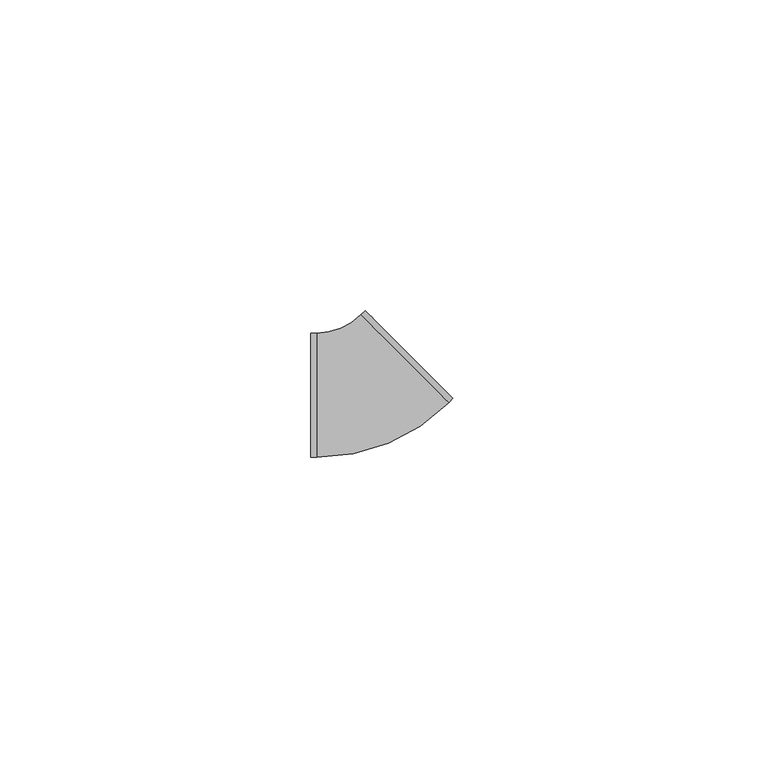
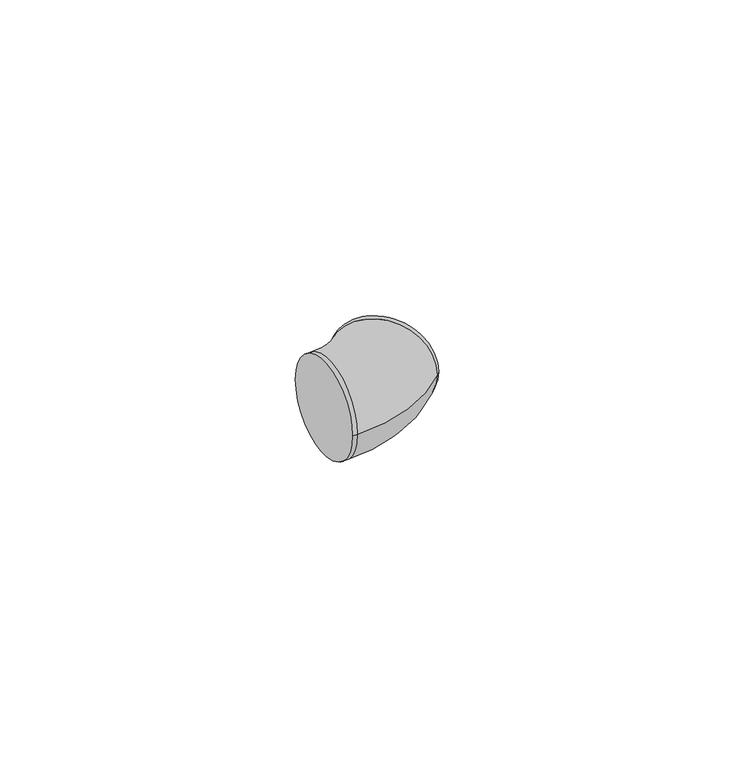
"""IFC4 building model written with IfcOpenShell, lengths in millimetres: cable carrier fitting geometry, ADSK_Поворот_Минимальный размер : Неспецифицируемый."""

from ifc_helpers import new_model, si_unit, point, frame, origin, place, context, project, spatial, circle_curve, ellipse_curve, trimmed, source, transform, mapped, element, save
from ifc_brep_helpers import plane_surface, cylinder_surface, revolved_surface, advanced_brep


def cable_carrier_fitting_a14a04ee(model_context):
    return source(origin(), model_context, "Body", "AdvancedBrep", [
        advanced_brep(
        [(-9.284272, -10.0, 0.0), (-9.284272, 10.0, 0.0), (-8.284272, -10.0, 0.0), (-8.284272, 10.0, 0.0), (-1.2132037, 12.9289327, 0.0), (12.9289328, -1.213202, 0.0), (13.6360396, -0.5060952, 0.0), (-0.506097, 13.6360395, 0.0)],
        [
            (0, 1, circle_curve(frame((-9.284272, 0.0, 0.0), z_axis=(-1.0, -4.92260399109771e-12, 0.0), x_axis=(-4.92260399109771e-12, 1.0, 0.0)), 10.0)),
            (1, 0, circle_curve(frame((-9.284272, 0.0, 0.0), z_axis=(-1.0, -4.92260399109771e-12, 0.0), x_axis=(-4.92260399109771e-12, 1.0, 0.0)), 10.0)),
            (0, 2),
            (2, 3, circle_curve(frame((-8.284272, 0.0, 0.0), z_axis=(-1.0, -4.92260399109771e-12, 0.0), x_axis=(-4.92260399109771e-12, 1.0, 0.0)), 10.0)),
            (3, 1),
            (3, 2, circle_curve(frame((-8.284272, 0.0, 0.0), z_axis=(-1.0, -4.92260399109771e-12, 0.0), x_axis=(-4.92260399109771e-12, 1.0, 0.0)), 10.0)),
            (4, 3, circle_curve(frame((-8.284272, 20.0, 0.0), z_axis=(0.0, 0.0, -1.0), x_axis=(0.0, -1.0, 0.0)), 10.0)),
            (2, 5, circle_curve(frame((-8.284272, 20.0, 0.0), z_axis=(0.0, 0.0, 1.0), x_axis=(0.0, -1.0, 0.0)), 30.0)),
            (5, 4, circle_curve(frame((5.8578645, 5.8578653, 0.0), z_axis=(-0.7071067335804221, -0.7071068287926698, 0.0), x_axis=(-0.7071068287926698, 0.7071067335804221, 0.0)), 10.0)),
            (4, 5, circle_curve(frame((5.8578645, 5.8578653, 0.0), z_axis=(-0.7071067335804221, -0.7071068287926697, 0.0), x_axis=(-0.7071068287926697, 0.7071067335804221, 0.0)), 10.0)),
            (6, 7, circle_curve(frame((6.5649713, 6.5649722, 0.0), z_axis=(0.7071067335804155, 0.7071068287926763, 0.0), x_axis=(-0.7071068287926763, 0.7071067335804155, 0.0)), 10.0)),
            (7, 6, circle_curve(frame((6.5649713, 6.5649722, 0.0), z_axis=(0.7071067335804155, 0.7071068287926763, 0.0), x_axis=(-0.7071068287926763, 0.7071067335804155, 0.0)), 10.0)),
            (5, 6),
            (7, 4),
        ],
        [
            plane_surface(frame((-9.284272, 0.0, 0.0), z_axis=(-1.0, -4.92260399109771e-12, 0.0), x_axis=(0.0, 0.0, 1.0))),
            cylinder_surface(frame((-9.284272, 0.0, 0.0), z_axis=(-1.0, -4.92260399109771e-12, 0.0), x_axis=(-4.92260399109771e-12, 1.0, 0.0)), 10.0),
            revolved_surface(trimmed(ellipse_curve(frame((-8.284272, 0.0, 0.0), z_axis=(-1.0, 0.0, 0.0), x_axis=(0.0, 1.0, 0.0)), 10.0, 10.0), [point((-8.284272, -10.0, 0.0))], [point((-8.284272, 10.0, 0.0))], True, "CARTESIAN"), (-8.284272, 20.0, 0.0), (0.0, 0.0, 1.0)),
            revolved_surface(trimmed(ellipse_curve(frame((-8.284272, 0.0, 0.0), z_axis=(-1.0, 0.0, 0.0), x_axis=(0.0, 1.0, 0.0)), 10.0, 10.0), [point((-8.284272, 10.0, 0.0))], [point((-8.284272, -10.0, 0.0))], True, "CARTESIAN"), (-8.284272, 20.0, 0.0), (0.0, 0.0, 1.0)),
            plane_surface(frame((6.5649713, 6.5649722, 0.0), z_axis=(0.7071067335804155, 0.7071068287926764, 0.0), x_axis=(0.0, 0.0, 1.0))),
            cylinder_surface(frame((5.8578645, 5.8578653, 0.0), z_axis=(-0.7071067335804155, -0.7071068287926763, 0.0), x_axis=(-0.7071068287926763, 0.7071067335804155, 0.0)), 10.0),
        ],
        [
            (0, [[1, 2]]),
            (1, [[-1, 3, 4, 5]]),
            (1, [[-2, -5, 6, -3]]),
            (2, [[7, -4, 8, 9]]),
            (3, [[-8, -6, -7, 10]]),
            (4, [[11, 12]]),
            (5, [[-9, 13, -12, 14]]),
            (5, [[-10, -14, -11, -13]]),
        ],
    ),
    ])


if __name__ == "__main__":
    model = new_model("IFC4")
    model_context = context("Model", 3, world=origin())
    ifc_project = project(units=[si_unit("LENGTHUNIT", "METRE", prefix="MILLI")], contexts=[model_context])
    site = spatial("IfcSite", under=ifc_project)
    building = spatial("IfcBuilding", under=site)
    placement = place(None, origin())
    cable_carrier_fitting_shape = cable_carrier_fitting_a14a04ee(model_context)
    element("IfcCableCarrierFitting", 1, ObjectType="ADSK_Поворот_Минимальный размер : Неспецифицируемый", at=placement, inside=building, context=model_context, shape_type="MappedRepresentation", body=[
        mapped(cable_carrier_fitting_shape, transform((0.0, 0.0, 0.0), x_axis=(1.0, 0.0, 0.0), y_axis=(0.0, 1.0, 0.0), z_axis=(0.0, 0.0, 1.0))),
    ])
    save(model, "model.ifc")
